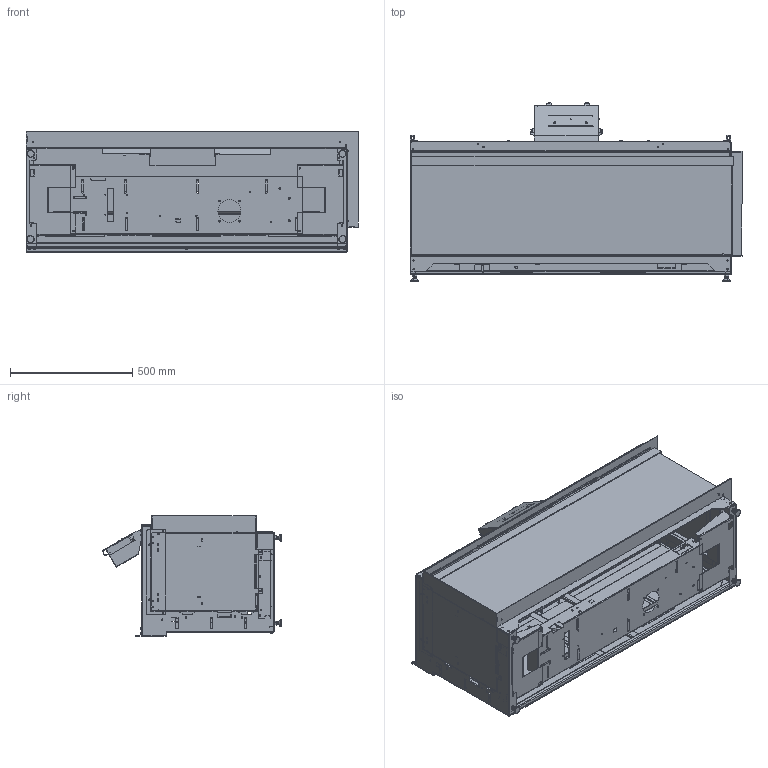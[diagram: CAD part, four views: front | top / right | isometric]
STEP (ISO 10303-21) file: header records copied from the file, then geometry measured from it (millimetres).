
FILE_DESCRIPTION (( 'STEP AP203' ), '1' );
FILE_NAME ('E-ONE GEN2 130 CR MAIN ASSY.STEP', '2023-10-18T10:18:41', ( '' ), ( '' ), 'SwSTEP 2.0', 'SolidWorks 2020', '' );
FILE_SCHEMA (( 'CONFIG_CONTROL_DESIGN' ));
Length unit declared in the file: millimetre
Products named in the file (1): E-ONE GEN2 130 CR MAIN ASSY
Bounding box: 1355.5 x 728.5 x 492.1 mm (x, y, z)
Surface area: 7165209.3 mm2 (no closed solid volume)
Topology: 0 solids, 236 shells, 762 faces, 6466 edges, 5692 vertices
Faces by surface type: plane 507, cylinder 192, cone 36, bspline 14, torus 12, sphere 1
Entity records: 61511 total; most frequent: CARTESIAN_POINT 14146, DIRECTION 10138, ORIENTED_EDGE 7296, EDGE_CURVE 6462, VERTEX_POINT 5692, LINE 3976, VECTOR 3976, AXIS2_PLACEMENT_3D 3081
